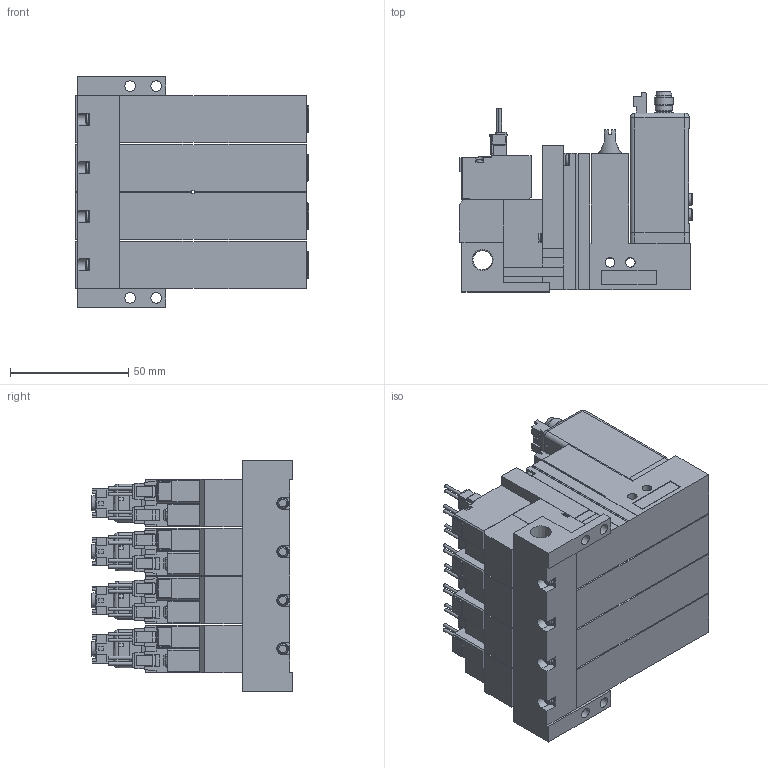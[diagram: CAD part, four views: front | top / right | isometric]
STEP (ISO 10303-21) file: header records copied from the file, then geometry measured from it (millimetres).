
FILE_DESCRIPTION(('STEP AP203'),'1');
FILE_NAME('22_22PLC5ALR404.stp','2025-06-12T03:15:31',(' '),(' '),'Spatial InterOp 3D',' ',' ');
FILE_SCHEMA(('CONFIG_CONTROL_DESIGN'));
Length unit declared in the file: millimetre
Products named in the file (8): BMC22M※※※※22_22PLC5ALR404; Solenoid valve A; Unit LC; Base MR40R; MVS-202
Assembly tree (13 placements, depth 2):
  BMC22M※※※※22_22PLC5ALR404
    Solenoid valve A  x4
    Unit LC  x4
    Base MR40R
    MVS-202
    MVS-202
    MVS-202
    MVS-202
Bounding box: 98.5 x 84.6 x 97.5 mm (x, y, z)
Volume: 440404.1 mm3; surface area: 125852.4 mm2
Topology: 13 solids, 29 shells, 3237 faces, 8443 edges, 5504 vertices
Faces by surface type: plane 2726, cylinder 397, cone 66, torus 32, sphere 16
Full cylindrical faces by diameter (mm): 1 x16, 1.4 x16, 1.5 x4, 2.5 x4, 3 x16, 3.5 x16, 3.6 x4, 4 x8, 4.134 x4, 4.5 x20, 4.8 x12, 5 x8, 5.2 x4, 5.8 x8, 6 x8, 6.5 x12, 6.6 x4, 7 x4, 7.2 x4, 7.9 x4, 8 x8, 8.279 x1
Entity records: 63573 total; most frequent: CARTESIAN_POINT 11482, ORIENTED_EDGE 10418, DIRECTION 10241, EDGE_CURVE 5209, LINE 4409, VECTOR 4409, VERTEX_POINT 3521, AXIS2_PLACEMENT_3D 2916
